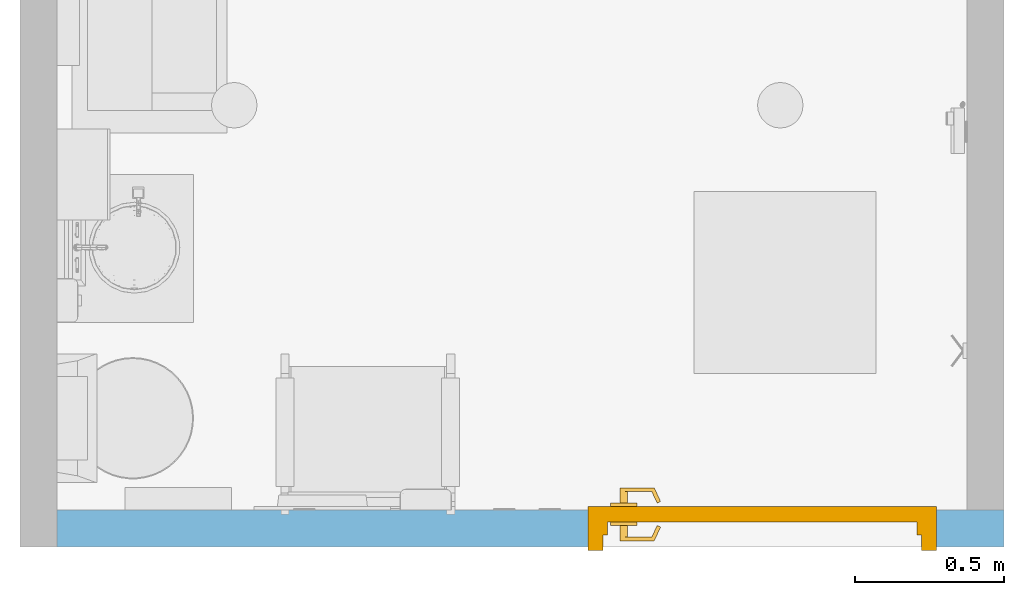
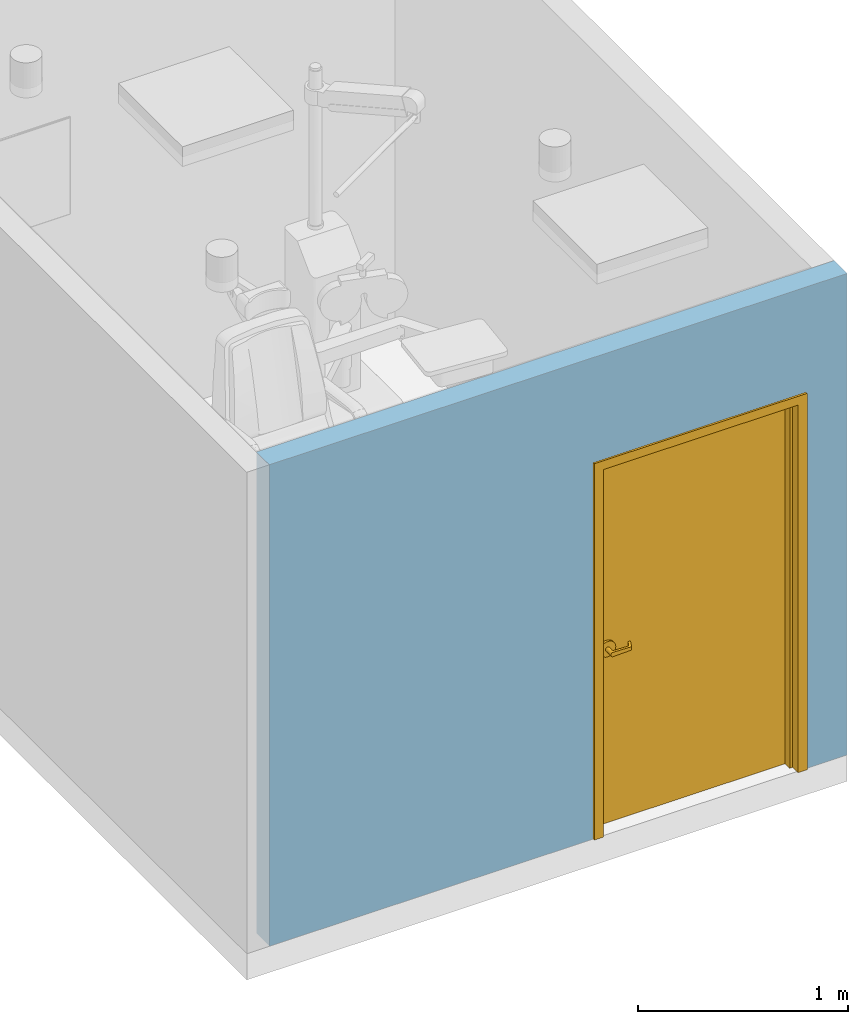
# One storey, part 2 of 11: 1 door, 1 opening, plus 1 element that does not belong to this part.
"""IFC2X3 building model written with IfcOpenShell, lengths in feet."""

from ifc_helpers import new_model, entity, si_unit, converted_unit, derived_unit, direction, frame, frame_2d, origin, place, context, subcontext, project, spatial, rectangle, extrude, faceted_brep, source, transform, mapped, material, material_list, layer, layer_set, layer_usage, type_object, type_shapes, element, fill, save


model = new_model("IFC2X3")

# Units and contexts
model_context = context("Model", 3, precision=0.0001, world=origin(), true_north=direction((6.12303176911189e-17, 1.0)))
body_context = subcontext(model_context, "Body", "Model", "MODEL_VIEW")
ifc_project = project(units=[converted_unit("LENGTHUNIT", "FOOT", entity("IfcRatioMeasure", 0.3048), si_unit("LENGTHUNIT", "METRE"), dimensions=[1, 0, 0, 0, 0, 0, 0]), converted_unit("AREAUNIT", "SQUARE FOOT", entity("IfcRatioMeasure", 0.09290304), si_unit("AREAUNIT", "SQUARE_METRE"), dimensions=[2, 0, 0, 0, 0, 0, 0]), converted_unit("VOLUMEUNIT", "CUBIC FOOT", entity("IfcRatioMeasure", 0.028316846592), si_unit("VOLUMEUNIT", "CUBIC_METRE"), dimensions=[3, 0, 0, 0, 0, 0, 0]), converted_unit("PLANEANGLEUNIT", "DEGREE", entity("IfcRatioMeasure", 0.0174532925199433), si_unit("PLANEANGLEUNIT", "RADIAN"), dimensions=[0, 0, 0, 0, 0, 0, 0]), si_unit("MASSUNIT", "GRAM", prefix="KILO"), derived_unit("MASSDENSITYUNIT", [(si_unit("MASSUNIT", "GRAM", prefix="KILO"), 1), (si_unit("LENGTHUNIT", "METRE"), -3)]), si_unit("TIMEUNIT", "SECOND"), si_unit("FREQUENCYUNIT", "HERTZ"), si_unit("THERMODYNAMICTEMPERATUREUNIT", "DEGREE_CELSIUS"), derived_unit("THERMALTRANSMITTANCEUNIT", [(si_unit("MASSUNIT", "GRAM", prefix="KILO"), 1), (si_unit("THERMODYNAMICTEMPERATUREUNIT", "KELVIN"), -1), (si_unit("TIMEUNIT", "SECOND"), -3)]), derived_unit("VOLUMETRICFLOWRATEUNIT", [(si_unit("LENGTHUNIT", "METRE"), 3), (si_unit("TIMEUNIT", "SECOND"), -1)]), si_unit("ELECTRICCURRENTUNIT", "AMPERE"), si_unit("ELECTRICVOLTAGEUNIT", "VOLT"), si_unit("POWERUNIT", "WATT"), si_unit("FORCEUNIT", "NEWTON"), si_unit("ILLUMINANCEUNIT", "LUX"), si_unit("LUMINOUSFLUXUNIT", "LUMEN"), si_unit("LUMINOUSINTENSITYUNIT", "CANDELA"), derived_unit("USERDEFINED", [(si_unit("MASSUNIT", "GRAM", prefix="KILO"), -1), (si_unit("LENGTHUNIT", "METRE"), -2), (si_unit("TIMEUNIT", "SECOND"), 3), (si_unit("LUMINOUSFLUXUNIT", "LUMEN"), 1)]), derived_unit("LINEARVELOCITYUNIT", [(si_unit("LENGTHUNIT", "METRE"), 1), (si_unit("TIMEUNIT", "SECOND"), -1)]), si_unit("PRESSUREUNIT", "PASCAL"), derived_unit("USERDEFINED", [(si_unit("LENGTHUNIT", "METRE"), -2), (si_unit("MASSUNIT", "GRAM", prefix="KILO"), 1), (si_unit("TIMEUNIT", "SECOND"), -2)])], contexts=[model_context])

# Site, building, storey
site_placement = place(None, origin())
site = spatial("IfcSite", under=ifc_project, at=site_placement, Name="Default", CompositionType="ELEMENT")
building_placement = place(site_placement, origin())
building = spatial("IfcBuilding", under=site, at=building_placement, Name="EYE CLINIC:  OPTHALMOLOGY AND OPTOMETRY SERVICES (Ch. 233)", CompositionType="ELEMENT")
storey_placement = place(building_placement, origin())
storey = spatial("IfcBuildingStorey", under=building, at=storey_placement, Name="DATUM", CompositionType="ELEMENT", Elevation=0.0)

# Wall, opening, door
ifc_material_1 = material(Name="Default Wall")
ifc_layer = layer(ifc_material_1, 0.40625)
ifc_layer_set = layer_set([ifc_layer], Name="Basic Wall:Interior - 4 7/8\"")
ifc_layer_usage = layer_usage(ifc_layer_set, "AXIS2", "NEGATIVE", 0.203125)
wall_type = type_object("IfcWallType", Name="Basic Wall:Interior - 4 7/8\"", PredefinedType="STANDARD", material=ifc_layer_set)
wall_placement = place(storey_placement, frame((-25.4539808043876, -1.39549931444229, 0.0), z_axis=(0.0, 0.0, 1.0), x_axis=(-1.0, 0.0, 0.0)))
wall = element("IfcWallStandardCase", 1, at=wall_placement, inside=storey, type_object=wall_type, material=ifc_layer_usage, Name="Basic Wall:Interior - 4 7/8\"", ObjectType="Basic Wall:Interior - 4 7/8\"", context=body_context, shape_type="SweptSolid", body=[
    extrude(rectangle(XDim=10.40625, YDim=0.40625, at=frame_2d((5.203125, 1.38777878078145e-17), x_axis=(-1.0, 0.0))), origin(), (0.0, 0.0, 1.0), 9.16666666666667),
])
opening_placement = place(wall_placement, frame((4.57291666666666, 0.203124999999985, 0.0)))
opening = element("IfcOpeningElement", 2, at=opening_placement, cuts=wall, Name="Single - Flush:42\" x 84\":1", ObjectType="Opening", context=body_context, shape_type="SweptSolid", body=[
    extrude(rectangle(XDim=3.83333333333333, YDim=7.16666666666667, at=frame_2d((3.58333333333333, 1.91666666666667), x_axis=(0.0, 1.0))), frame((0.0, 0.0, 0.0), z_axis=(0.0, -1.0, 0.0), x_axis=(0.0, 0.0, 1.0)), (0.0, 0.0, 1.0), 0.40625),
])
ifc_material_2 = material(Name="Door - Hardware")
ifc_material_3 = material(Name="Door - Wood Panel")
ifc_material_4 = material(Name="Door - H.M. Frame")
ifc_material_list_1 = material_list([ifc_material_2, ifc_material_3, ifc_material_4])
ifc_material_list_2 = material_list([ifc_material_2, ifc_material_3, ifc_material_4])
door_style = type_object("IfcDoorStyle", Name="42\" x 84\"", ConstructionType="NOTDEFINED", OperationType="NOTDEFINED", ParameterTakesPrecedence=False, Sizeable=False, material=ifc_material_list_2)
shared_shape = source(origin(), body_context, "Body", "Brep", [
    faceted_brep([(0.761840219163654, 0.236368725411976, 3.3541666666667), (0.761840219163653, 0.236368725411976, 3.31250000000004), (0.709012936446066, 0.123080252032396, 3.30208333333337), (0.702622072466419, 0.109375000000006, 3.30208333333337), (0.702622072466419, 0.109375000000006, 3.36458333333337), (0.709012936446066, 0.123080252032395, 3.36458333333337), (0.799603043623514, 0.218759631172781, 3.3541666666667), (0.746775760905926, 0.1054711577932, 3.36458333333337), (0.729166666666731, 0.0677083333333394, 3.36458333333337), (0.72916666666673, 0.0677083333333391, 3.30208333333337), (0.746775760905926, 0.1054711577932, 3.30208333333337), (0.799603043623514, 0.218759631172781, 3.31250000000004), (0.72916666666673, 0.109375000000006, 3.30208333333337), (0.729166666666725, 0.109375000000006, 3.36458333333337), (0.397137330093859, 0.0677083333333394, 3.29168707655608), (0.397137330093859, 0.0677083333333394, 3.37497959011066), (0.38693671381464, 0.0677083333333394, 3.37403912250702), (0.377273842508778, 0.0677083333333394, 3.37063824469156), (0.368732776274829, 0.0677083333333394, 3.36498251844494), (0.361829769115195, 0.0677083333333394, 3.35741379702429), (0.356982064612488, 0.0677083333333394, 3.34838956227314), (0.354482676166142, 0.0677083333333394, 3.33845527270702), (0.354482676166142, 0.0677083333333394, 3.32821139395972), (0.356982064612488, 0.0677083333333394, 3.31827710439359), (0.361829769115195, 0.0677083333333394, 3.30925286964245), (0.368732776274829, 0.0677083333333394, 3.3016841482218), (0.377273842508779, 0.0677083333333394, 3.29602842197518), (0.38693671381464, 0.0677083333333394, 3.29262754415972), (0.397137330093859, 0.109375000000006, 3.29168707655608), (0.407663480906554, 0.109375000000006, 3.29338137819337), (0.417415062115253, 0.109375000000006, 3.29769150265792), (0.425753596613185, 0.109375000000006, 3.30433524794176), (0.432133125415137, 0.109375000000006, 3.31287762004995), (0.436135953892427, 0.109375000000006, 3.32275931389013), (0.437500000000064, 0.109375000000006, 3.33333333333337), (0.436135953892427, 0.109375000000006, 3.34390735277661), (0.432133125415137, 0.109375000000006, 3.35378904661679), (0.425753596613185, 0.109375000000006, 3.36233141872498), (0.417415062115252, 0.109375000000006, 3.36897516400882), (0.407663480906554, 0.109375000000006, 3.37328528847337), (0.397137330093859, 0.109375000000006, 3.37497959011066), (0.387651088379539, 0.109375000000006, 3.29247795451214), (0.378594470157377, 0.109375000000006, 3.2954000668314), (0.363605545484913, 0.109375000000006, 3.30692347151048), (0.370437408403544, 0.109375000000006, 3.30030065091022), (0.358454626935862, 0.109375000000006, 3.31492291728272), (0.355252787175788, 0.109375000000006, 3.32388185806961), (0.35416666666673, 0.109375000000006, 3.33333333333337), (0.355252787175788, 0.109375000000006, 3.34278480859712), (0.358454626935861, 0.109375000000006, 3.35174374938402), (0.370437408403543, 0.109375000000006, 3.36636601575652), (0.363605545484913, 0.109375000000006, 3.35974319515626), (0.378594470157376, 0.109375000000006, 3.37126659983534), (0.387651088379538, 0.109375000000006, 3.3741887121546), (0.35416666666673, 0.234375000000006, 3.33333333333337), (0.355586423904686, 0.234375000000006, 3.34411746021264), (0.359748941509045, 0.234375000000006, 3.3541666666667), (0.375000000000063, 0.234375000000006, 3.36941772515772), (0.366370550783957, 0.234375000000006, 3.36279611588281), (0.385049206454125, 0.234375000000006, 3.37358024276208), (0.395833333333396, 0.234375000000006, 3.37500000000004), (0.406617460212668, 0.234375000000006, 3.37358024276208), (0.41666666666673, 0.234375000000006, 3.36941772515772), (0.431917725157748, 0.234375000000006, 3.3541666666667), (0.425296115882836, 0.234375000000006, 3.36279611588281), (0.436080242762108, 0.234375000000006, 3.34411746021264), (0.437500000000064, 0.234375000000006, 3.33333333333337), (0.436080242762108, 0.234375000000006, 3.3225492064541), (0.431917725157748, 0.234375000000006, 3.31250000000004), (0.41666666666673, 0.234375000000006, 3.29724894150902), (0.425296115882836, 0.234375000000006, 3.30387055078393), (0.406617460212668, 0.234375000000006, 3.29308642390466), (0.395833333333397, 0.234375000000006, 3.2916666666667), (0.385049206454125, 0.234375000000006, 3.29308642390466), (0.375000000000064, 0.234375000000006, 3.29724894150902), (0.359748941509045, 0.234375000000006, 3.31250000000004), (0.366370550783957, 0.234375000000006, 3.30387055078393), (0.355586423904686, 0.234375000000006, 3.3225492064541), (0.468750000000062, 0.234375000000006, 3.4596287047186), (0.498953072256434, 0.234375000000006, 3.43645307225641), (0.433577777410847, 0.234375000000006, 3.47419751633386), (0.395833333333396, 0.234375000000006, 3.4791666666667), (0.358088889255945, 0.234375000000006, 3.47419751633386), (0.322916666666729, 0.234375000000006, 3.4596287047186), (0.292713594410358, 0.234375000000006, 3.43645307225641), (0.269537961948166, 0.234375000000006, 3.40625000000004), (0.254969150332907, 0.234375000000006, 3.37107777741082), (0.250000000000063, 0.234375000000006, 3.33333333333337), (0.254969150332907, 0.234375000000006, 3.29558888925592), (0.269537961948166, 0.234375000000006, 3.2604166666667), (0.292713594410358, 0.234375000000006, 3.23021359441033), (0.32291666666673, 0.234375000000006, 3.20703796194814), (0.358088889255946, 0.234375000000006, 3.19246915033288), (0.395833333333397, 0.234375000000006, 3.18750000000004), (0.433577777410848, 0.234375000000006, 3.19246915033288), (0.468750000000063, 0.234375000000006, 3.20703796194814), (0.498953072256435, 0.234375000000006, 3.23021359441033), (0.522128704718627, 0.234375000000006, 3.2604166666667), (0.536697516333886, 0.234375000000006, 3.29558888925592), (0.54166666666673, 0.234375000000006, 3.33333333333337), (0.536697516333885, 0.234375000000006, 3.37107777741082), (0.522128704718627, 0.234375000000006, 3.40625000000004), (0.433577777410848, 0.276041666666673, 3.19246915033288), (0.395833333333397, 0.276041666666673, 3.18750000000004), (0.358088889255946, 0.276041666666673, 3.19246915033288), (0.32291666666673, 0.276041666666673, 3.20703796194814), (0.292713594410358, 0.276041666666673, 3.23021359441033), (0.269537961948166, 0.276041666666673, 3.2604166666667), (0.254969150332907, 0.276041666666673, 3.29558888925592), (0.250000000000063, 0.276041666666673, 3.33333333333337), (0.254969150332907, 0.276041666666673, 3.37107777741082), (0.269537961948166, 0.276041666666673, 3.40625000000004), (0.292713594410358, 0.276041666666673, 3.43645307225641), (0.322916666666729, 0.276041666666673, 3.4596287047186), (0.358088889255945, 0.276041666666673, 3.47419751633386), (0.395833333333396, 0.276041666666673, 3.4791666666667), (0.433577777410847, 0.276041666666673, 3.47419751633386), (0.468750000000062, 0.276041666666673, 3.4596287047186), (0.498953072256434, 0.276041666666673, 3.43645307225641), (0.522128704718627, 0.276041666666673, 3.40625000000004), (0.536697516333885, 0.276041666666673, 3.37107777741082), (0.54166666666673, 0.276041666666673, 3.33333333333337), (0.536697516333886, 0.276041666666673, 3.29558888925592), (0.522128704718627, 0.276041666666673, 3.2604166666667), (0.498953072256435, 0.276041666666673, 3.23021359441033), (0.468750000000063, 0.276041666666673, 3.20703796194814)], [[[0, 1, 2, 3, 4, 5]], [[6, 7, 8, 9, 10, 11]], [[12, 3, 2, 10, 9]], [[11, 10, 2, 1]], [[11, 1, 0, 6]], [[7, 6, 0, 5]], [[13, 8, 7, 5, 4]], [[14, 9, 8, 15, 16, 17, 18, 19, 20, 21, 22, 23, 24, 25, 26, 27]], [[3, 12, 28, 29, 30, 31, 32, 33, 34, 35, 36, 37, 38, 39, 40, 13, 4]], [[28, 12, 9, 14]], [[28, 14, 41]], [[41, 27, 42]], [[43, 44, 25]], [[24, 45, 43]], [[26, 44, 42]], [[45, 23, 46]], [[27, 26, 42]], [[41, 14, 27]], [[45, 24, 23]], [[24, 43, 25]], [[44, 26, 25]], [[46, 23, 22]], [[22, 47, 46]], [[47, 21, 48]], [[48, 20, 49]], [[50, 51, 18]], [[17, 52, 50]], [[19, 51, 49]], [[52, 16, 53]], [[51, 19, 18]], [[49, 20, 19]], [[48, 21, 20]], [[53, 16, 15]], [[16, 52, 17]], [[50, 18, 17]], [[40, 53, 15]], [[22, 21, 47]], [[40, 15, 8, 13]], [[54, 48, 55]], [[55, 49, 56]], [[57, 58, 50]], [[51, 58, 56]], [[59, 57, 52]], [[48, 49, 55]], [[54, 47, 48]], [[57, 50, 52]], [[50, 58, 51]], [[56, 49, 51]], [[59, 52, 53]], [[53, 60, 59]], [[60, 40, 61]], [[61, 39, 62]], [[63, 64, 37]], [[36, 65, 63]], [[38, 64, 62]], [[65, 35, 66]], [[39, 38, 62]], [[61, 40, 39]], [[65, 36, 35]], [[36, 63, 37]], [[64, 38, 37]], [[66, 35, 34]], [[53, 40, 60]], [[66, 33, 67]], [[67, 32, 68]], [[69, 70, 30]], [[31, 70, 68]], [[71, 69, 29]], [[33, 32, 67]], [[66, 34, 33]], [[69, 30, 29]], [[30, 70, 31]], [[68, 32, 31]], [[71, 29, 28]], [[28, 72, 71]], [[72, 41, 73]], [[73, 42, 74]], [[75, 76, 43]], [[45, 77, 75]], [[44, 76, 74]], [[77, 46, 54]], [[42, 44, 74]], [[73, 41, 42]], [[77, 45, 46]], [[45, 75, 43]], [[76, 44, 43]], [[54, 46, 47]], [[28, 41, 72]], [[78, 61, 62]], [[78, 62, 79]], [[78, 80, 61]], [[60, 61, 80]], [[81, 60, 80]], [[60, 81, 59]], [[82, 59, 81]], [[82, 57, 59]], [[57, 82, 83]], [[57, 83, 58]], [[84, 58, 83]], [[58, 84, 56]], [[56, 84, 85]], [[56, 85, 55]], [[55, 85, 86]], [[54, 55, 86]], [[87, 54, 86]], [[77, 54, 87]], [[88, 77, 87]], [[75, 77, 88]], [[89, 75, 88]], [[75, 89, 90]], [[76, 75, 90]], [[90, 91, 76]], [[91, 74, 76]], [[74, 91, 92]], [[74, 92, 73]], [[92, 93, 73]], [[72, 73, 93]], [[93, 94, 72]], [[72, 94, 71]], [[95, 71, 94]], [[71, 95, 69]], [[69, 95, 96]], [[70, 69, 96]], [[97, 70, 96]], [[68, 70, 97]], [[98, 68, 97]], [[68, 98, 67]], [[67, 98, 99]], [[99, 66, 67]], [[99, 100, 66]], [[65, 66, 100]], [[101, 65, 100]], [[64, 101, 79]], [[101, 63, 65]], [[63, 101, 64]], [[64, 79, 62]], [[102, 103, 104, 105, 106, 107, 108, 109, 110, 111, 112, 113, 114, 115, 116, 117, 118, 119, 120, 121, 122, 123, 124, 125]], [[109, 87, 86, 110]], [[110, 86, 85, 111]], [[113, 112, 84, 83]], [[84, 112, 111, 85]], [[114, 113, 83, 82]], [[114, 82, 81, 115]], [[115, 81, 80, 116]], [[116, 80, 78, 117]], [[119, 118, 79, 101]], [[79, 118, 117, 78]], [[120, 119, 101, 100]], [[120, 100, 99, 121]], [[121, 99, 98, 122]], [[122, 98, 97, 123]], [[125, 124, 96, 95]], [[96, 124, 123, 97]], [[102, 125, 95, 94]], [[102, 94, 93, 103]], [[103, 93, 92, 104]], [[104, 92, 91, 105]], [[107, 106, 90, 89]], [[90, 106, 105, 91]], [[108, 107, 89, 88]], [[108, 88, 87, 109]]]),
    faceted_brep([(0.761840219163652, 0.482381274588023, 3.31249999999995), (0.761840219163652, 0.482381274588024, 3.35416666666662), (0.709012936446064, 0.595669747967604, 3.36458333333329), (0.702622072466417, 0.609374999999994, 3.36458333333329), (0.702622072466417, 0.609374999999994, 3.30208333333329), (0.709012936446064, 0.595669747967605, 3.30208333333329), (0.799603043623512, 0.499990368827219, 3.31249999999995), (0.746775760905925, 0.6132788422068, 3.30208333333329), (0.729166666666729, 0.651041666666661, 3.30208333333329), (0.729166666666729, 0.651041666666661, 3.36458333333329), (0.746775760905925, 0.6132788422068, 3.36458333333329), (0.799603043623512, 0.499990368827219, 3.35416666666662), (0.729166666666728, 0.609374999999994, 3.36458333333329), (0.729166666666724, 0.609374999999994, 3.30208333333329), (0.397137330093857, 0.651041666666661, 3.37497959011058), (0.397137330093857, 0.651041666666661, 3.291687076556), (0.386936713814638, 0.651041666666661, 3.29262754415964), (0.377273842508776, 0.651041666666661, 3.2960284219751), (0.368732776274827, 0.651041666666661, 3.30168414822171), (0.361829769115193, 0.651041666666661, 3.30925286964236), (0.356982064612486, 0.651041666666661, 3.31827710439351), (0.35448267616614, 0.651041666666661, 3.32821139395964), (0.35448267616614, 0.651041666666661, 3.33845527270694), (0.356982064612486, 0.651041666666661, 3.34838956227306), (0.361829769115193, 0.651041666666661, 3.35741379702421), (0.368732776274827, 0.651041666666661, 3.36498251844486), (0.377273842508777, 0.651041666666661, 3.37063824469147), (0.386936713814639, 0.651041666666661, 3.37403912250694), (0.397137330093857, 0.609374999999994, 3.37497959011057), (0.407663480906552, 0.609374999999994, 3.37328528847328), (0.417415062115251, 0.609374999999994, 3.36897516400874), (0.425753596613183, 0.609374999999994, 3.3623314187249), (0.432133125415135, 0.609374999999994, 3.35378904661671), (0.436135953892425, 0.609374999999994, 3.34390735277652), (0.437500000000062, 0.609374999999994, 3.33333333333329), (0.436135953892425, 0.609374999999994, 3.32275931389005), (0.432133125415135, 0.609374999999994, 3.31287762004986), (0.425753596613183, 0.609374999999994, 3.30433524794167), (0.417415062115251, 0.609374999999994, 3.29769150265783), (0.407663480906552, 0.609374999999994, 3.29338137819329), (0.397137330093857, 0.609374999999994, 3.291687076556), (0.387651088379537, 0.609374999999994, 3.37418871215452), (0.378594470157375, 0.609374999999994, 3.37126659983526), (0.363605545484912, 0.609374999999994, 3.35974319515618), (0.370437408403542, 0.609374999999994, 3.36636601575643), (0.35845462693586, 0.609374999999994, 3.35174374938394), (0.355252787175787, 0.609374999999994, 3.34278480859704), (0.354166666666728, 0.609374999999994, 3.33333333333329), (0.355252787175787, 0.609374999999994, 3.32388185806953), (0.35845462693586, 0.609374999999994, 3.31492291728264), (0.370437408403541, 0.609374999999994, 3.30030065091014), (0.363605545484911, 0.609374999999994, 3.30692347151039), (0.378594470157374, 0.609374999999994, 3.29540006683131), (0.387651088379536, 0.609374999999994, 3.29247795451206), (0.354166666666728, 0.484374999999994, 3.33333333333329), (0.355586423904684, 0.484374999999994, 3.32254920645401), (0.359748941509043, 0.484374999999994, 3.31249999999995), (0.375000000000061, 0.484374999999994, 3.29724894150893), (0.366370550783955, 0.484374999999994, 3.30387055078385), (0.385049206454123, 0.484374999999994, 3.29308642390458), (0.395833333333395, 0.484374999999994, 3.29166666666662), (0.406617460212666, 0.484374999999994, 3.29308642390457), (0.416666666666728, 0.484374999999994, 3.29724894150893), (0.431917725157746, 0.484374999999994, 3.31249999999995), (0.425296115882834, 0.484374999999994, 3.30387055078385), (0.436080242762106, 0.484374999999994, 3.32254920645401), (0.437500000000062, 0.484374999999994, 3.33333333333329), (0.436080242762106, 0.484374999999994, 3.34411746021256), (0.431917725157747, 0.484374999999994, 3.35416666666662), (0.416666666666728, 0.484374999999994, 3.36941772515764), (0.425296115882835, 0.484374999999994, 3.36279611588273), (0.406617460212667, 0.484374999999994, 3.373580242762), (0.395833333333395, 0.484374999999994, 3.37499999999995), (0.385049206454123, 0.484374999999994, 3.373580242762), (0.375000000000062, 0.484374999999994, 3.36941772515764), (0.359748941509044, 0.484374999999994, 3.35416666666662), (0.366370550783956, 0.484374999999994, 3.36279611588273), (0.355586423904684, 0.484374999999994, 3.34411746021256), (0.468750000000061, 0.484374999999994, 3.20703796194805), (0.498953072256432, 0.484374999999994, 3.23021359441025), (0.433577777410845, 0.484374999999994, 3.1924691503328), (0.395833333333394, 0.484374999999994, 3.18749999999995), (0.358088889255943, 0.484374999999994, 3.1924691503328), (0.322916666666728, 0.484374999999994, 3.20703796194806), (0.292713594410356, 0.484374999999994, 3.23021359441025), (0.269537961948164, 0.484374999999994, 3.26041666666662), (0.254969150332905, 0.484374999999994, 3.29558888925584), (0.250000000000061, 0.484374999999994, 3.33333333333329), (0.254969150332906, 0.484374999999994, 3.37107777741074), (0.269537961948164, 0.484374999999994, 3.40624999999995), (0.292713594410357, 0.484374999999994, 3.43645307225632), (0.322916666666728, 0.484374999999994, 3.45962870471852), (0.358088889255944, 0.484374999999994, 3.47419751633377), (0.395833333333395, 0.484374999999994, 3.47916666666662), (0.433577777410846, 0.484374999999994, 3.47419751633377), (0.468750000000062, 0.484374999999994, 3.45962870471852), (0.498953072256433, 0.484374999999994, 3.43645307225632), (0.522128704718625, 0.484374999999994, 3.40624999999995), (0.536697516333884, 0.484374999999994, 3.37107777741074), (0.541666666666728, 0.484374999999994, 3.33333333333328), (0.536697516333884, 0.484374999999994, 3.29558888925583), (0.522128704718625, 0.484374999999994, 3.26041666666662), (0.433577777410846, 0.442708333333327, 3.47419751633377), (0.395833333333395, 0.442708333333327, 3.47916666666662), (0.358088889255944, 0.442708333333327, 3.47419751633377), (0.322916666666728, 0.442708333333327, 3.45962870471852), (0.292713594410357, 0.442708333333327, 3.43645307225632), (0.269537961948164, 0.442708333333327, 3.40624999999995), (0.254969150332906, 0.442708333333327, 3.37107777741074), (0.250000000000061, 0.442708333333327, 3.33333333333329), (0.254969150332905, 0.442708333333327, 3.29558888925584), (0.269537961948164, 0.442708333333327, 3.26041666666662), (0.292713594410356, 0.442708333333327, 3.23021359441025), (0.322916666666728, 0.442708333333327, 3.20703796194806), (0.358088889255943, 0.442708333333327, 3.1924691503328), (0.395833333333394, 0.442708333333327, 3.18749999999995), (0.433577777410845, 0.442708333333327, 3.1924691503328), (0.468750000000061, 0.442708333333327, 3.20703796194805), (0.498953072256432, 0.442708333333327, 3.23021359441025), (0.522128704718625, 0.442708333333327, 3.26041666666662), (0.536697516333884, 0.442708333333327, 3.29558888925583), (0.541666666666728, 0.442708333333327, 3.33333333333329), (0.536697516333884, 0.442708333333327, 3.37107777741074), (0.522128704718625, 0.442708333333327, 3.40624999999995), (0.498953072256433, 0.442708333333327, 3.43645307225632), (0.468750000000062, 0.442708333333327, 3.45962870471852)], [[[0, 1, 2, 3, 4, 5]], [[6, 7, 8, 9, 10, 11]], [[12, 3, 2, 10, 9]], [[11, 10, 2, 1]], [[11, 1, 0, 6]], [[7, 6, 0, 5]], [[13, 8, 7, 5, 4]], [[14, 9, 8, 15, 16, 17, 18, 19, 20, 21, 22, 23, 24, 25, 26, 27]], [[3, 12, 28, 29, 30, 31, 32, 33, 34, 35, 36, 37, 38, 39, 40, 13, 4]], [[28, 12, 9, 14]], [[28, 14, 41]], [[41, 27, 42]], [[43, 44, 25]], [[24, 45, 43]], [[26, 44, 42]], [[45, 23, 46]], [[27, 26, 42]], [[41, 14, 27]], [[45, 24, 23]], [[24, 43, 25]], [[44, 26, 25]], [[46, 23, 22]], [[22, 47, 46]], [[47, 21, 48]], [[48, 20, 49]], [[50, 51, 18]], [[17, 52, 50]], [[19, 51, 49]], [[52, 16, 53]], [[51, 19, 18]], [[49, 20, 19]], [[48, 21, 20]], [[53, 16, 15]], [[16, 52, 17]], [[50, 18, 17]], [[40, 53, 15]], [[22, 21, 47]], [[40, 15, 8, 13]], [[54, 48, 55]], [[55, 49, 56]], [[57, 58, 50]], [[51, 58, 56]], [[59, 57, 52]], [[48, 49, 55]], [[54, 47, 48]], [[57, 50, 52]], [[50, 58, 51]], [[56, 49, 51]], [[59, 52, 53]], [[53, 60, 59]], [[60, 40, 61]], [[61, 39, 62]], [[63, 64, 37]], [[36, 65, 63]], [[38, 64, 62]], [[65, 35, 66]], [[39, 38, 62]], [[61, 40, 39]], [[65, 36, 35]], [[36, 63, 37]], [[64, 38, 37]], [[66, 35, 34]], [[53, 40, 60]], [[66, 33, 67]], [[67, 32, 68]], [[69, 70, 30]], [[31, 70, 68]], [[71, 69, 29]], [[33, 32, 67]], [[66, 34, 33]], [[69, 30, 29]], [[30, 70, 31]], [[68, 32, 31]], [[71, 29, 28]], [[28, 72, 71]], [[72, 41, 73]], [[73, 42, 74]], [[75, 76, 43]], [[45, 77, 75]], [[44, 76, 74]], [[77, 46, 54]], [[42, 44, 74]], [[73, 41, 42]], [[77, 45, 46]], [[45, 75, 43]], [[76, 44, 43]], [[54, 46, 47]], [[28, 41, 72]], [[78, 61, 62]], [[78, 62, 79]], [[78, 80, 61]], [[60, 61, 80]], [[81, 60, 80]], [[60, 81, 59]], [[82, 59, 81]], [[82, 57, 59]], [[57, 82, 83]], [[57, 83, 58]], [[84, 58, 83]], [[58, 84, 56]], [[56, 84, 85]], [[56, 85, 55]], [[55, 85, 86]], [[54, 55, 86]], [[87, 54, 86]], [[77, 54, 87]], [[88, 77, 87]], [[75, 77, 88]], [[89, 75, 88]], [[75, 89, 90]], [[76, 75, 90]], [[90, 91, 76]], [[91, 74, 76]], [[74, 91, 92]], [[74, 92, 73]], [[92, 93, 73]], [[72, 73, 93]], [[93, 94, 72]], [[72, 94, 71]], [[95, 71, 94]], [[71, 95, 69]], [[69, 95, 96]], [[70, 69, 96]], [[97, 70, 96]], [[68, 70, 97]], [[98, 68, 97]], [[68, 98, 67]], [[67, 98, 99]], [[99, 66, 67]], [[99, 100, 66]], [[65, 66, 100]], [[101, 65, 100]], [[64, 101, 79]], [[101, 63, 65]], [[63, 101, 64]], [[64, 79, 62]], [[102, 103, 104, 105, 106, 107, 108, 109, 110, 111, 112, 113, 114, 115, 116, 117, 118, 119, 120, 121, 122, 123, 124, 125]], [[109, 87, 86, 110]], [[110, 86, 85, 111]], [[113, 112, 84, 83]], [[84, 112, 111, 85]], [[114, 113, 83, 82]], [[114, 82, 81, 115]], [[115, 81, 80, 116]], [[116, 80, 78, 117]], [[119, 118, 79, 101]], [[79, 118, 117, 78]], [[120, 119, 101, 100]], [[120, 100, 99, 121]], [[121, 99, 98, 122]], [[122, 98, 97, 123]], [[125, 124, 96, 95]], [[96, 124, 123, 97]], [[102, 125, 95, 94]], [[102, 94, 93, 103]], [[103, 93, 92, 104]], [[104, 92, 91, 105]], [[107, 106, 90, 89]], [[90, 106, 105, 91]], [[108, 107, 89, 88]], [[108, 88, 87, 109]]]),
    faceted_brep([(3.66666666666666, 0.442708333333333, 7.0), (3.66666666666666, 0.442708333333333, 0.0), (0.166666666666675, 0.442708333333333, 0.0), (0.166666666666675, 0.442708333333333, 7.0), (3.66666666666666, 0.276041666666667, 7.0), (0.166666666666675, 0.276041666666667, 7.0), (0.166666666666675, 0.276041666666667, 0.0), (3.66666666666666, 0.276041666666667, 0.0)], [[[0, 1, 2, 3]], [[4, 5, 6, 7]], [[3, 5, 4, 0]], [[2, 6, 5, 3]], [[1, 7, 6, 2]], [[0, 4, 7, 1]]]),
    faceted_brep([(3.66666666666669, 0.442708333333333, 0.0), (3.83333333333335, 0.442708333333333, 0.0), (3.83333333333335, -0.0364583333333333, 0.0), (3.66666666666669, -0.0364583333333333, 0.0), (3.66666666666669, 0.130208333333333, 0.0), (3.61458333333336, 0.130208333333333, 0.0), (3.61458333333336, 0.276041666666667, 0.0), (3.66666666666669, 0.276041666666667, 0.0), (3.66666666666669, 0.276041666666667, 7.0), (3.66666666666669, 0.442708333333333, 7.0), (3.61458333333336, 0.276041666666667, 6.94791666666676), (0.218749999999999, 0.276041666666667, 6.94791666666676), (0.218749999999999, 0.276041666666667, 0.0), (0.166666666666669, 0.276041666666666, 0.0), (0.166666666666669, 0.276041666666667, 7.0), (3.61458333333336, 0.130208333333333, 6.94791666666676), (3.66666666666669, 0.130208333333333, 7.0), (0.166666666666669, 0.130208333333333, 7.0), (0.166666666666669, 0.130208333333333, 0.0), (0.218749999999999, 0.130208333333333, 0.0), (0.218749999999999, 0.130208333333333, 6.94791666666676), (3.66666666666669, -0.0364583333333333, 7.0), (3.83333333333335, -0.0364583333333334, 7.16666666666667), (0.0, -0.0364583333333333, 7.16666666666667), (0.0, -0.0364583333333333, 0.0), (0.166666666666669, -0.0364583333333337, 0.0), (0.166666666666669, -0.0364583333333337, 7.0), (3.83333333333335, 0.442708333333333, 7.16666666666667), (0.166666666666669, 0.442708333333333, 7.0), (0.166666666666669, 0.442708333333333, 0.0), (0.0, 0.442708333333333, 0.0), (0.0, 0.442708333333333, 7.16666666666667)], [[[0, 1, 2, 3, 4, 5, 6, 7]], [[7, 8, 9, 0]], [[6, 10, 11, 12, 13, 14, 8, 7]], [[5, 15, 10, 6]], [[4, 16, 17, 18, 19, 20, 15, 5]], [[3, 21, 16, 4]], [[2, 22, 23, 24, 25, 26, 21, 3]], [[1, 27, 22, 2]], [[0, 9, 28, 29, 30, 31, 27, 1]], [[29, 28, 14, 13]], [[29, 13, 12, 19, 18, 25, 24, 30]], [[12, 11, 20, 19]], [[17, 26, 25, 18]], [[30, 24, 23, 31]], [[14, 28, 9, 8]], [[15, 20, 11, 10]], [[21, 26, 17, 16]], [[23, 22, 27, 31]]]),
])
type_shapes(door_style, [shared_shape])
door_placement = place(opening_placement, frame((0.0, 0.0, 0.0), z_axis=(0.0, 0.0, 1.0), x_axis=(-1.0, 0.0, 0.0)))
door = element("IfcDoor", 3, at=door_placement, inside=storey, type_object=door_style, material=ifc_material_list_1, Name="Single - Flush:42\" x 84\"", ObjectType="42\" x 84\"", OverallHeight=7.16666666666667, OverallWidth=3.83333333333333, context=body_context, shape_type="MappedRepresentation", body=[
    mapped(shared_shape, transform((0.0, 0.0, 0.0), scale=1.0)),
])
fill(opening, door)

save(model, "model.ifc")
